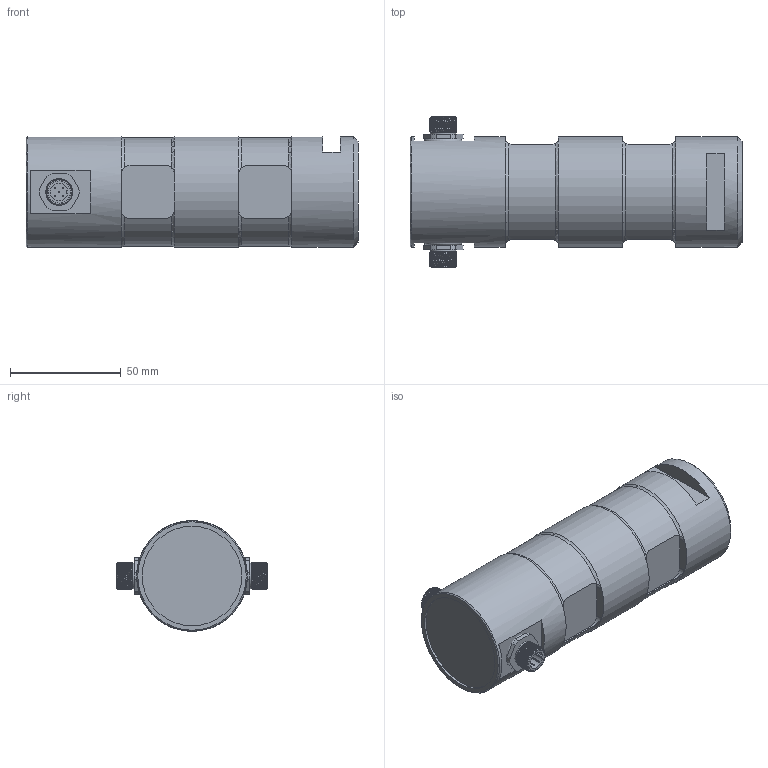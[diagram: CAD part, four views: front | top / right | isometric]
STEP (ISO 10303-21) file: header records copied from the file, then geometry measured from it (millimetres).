
FILE_DESCRIPTION(/* description */ ('Alibre Inc.'),/* implementation_level */ '2;1');
FILE_NAME(/* name */ 'export0',/* time_stamp */ '2016-04-25T08:49:04+02:00',/* author */ (''),/* organization */ (''),/* preprocessor_version */ 'ST-DEVELOPER v14',/* originating_system */ 'Alibre',/* authorisation */ '');
FILE_SCHEMA (('CONFIG_CONTROL_DESIGN'));
Length unit declared in the file: centimetre
Products named in the file (6): ID_1; ID_2; ID_3; ID_4
Bounding box: 150 x 68 x 50 mm (x, y, z)
Volume: 276595.3 mm3; surface area: 36829.4 mm2
Topology: 15 solids, 15 shells, 276 faces, 598 edges, 366 vertices
Faces by surface type: plane 116, cylinder 94, bspline 46, cone 10, torus 10
Full cylindrical faces by diameter (mm): 0.5 x16, 0.504 x2, 8 x4, 10 x6, 11.5 x2, 13 x2, 14.376 x2, 45 x1, 50 x3
Entity records: 16303 total; most frequent: CARTESIAN_POINT 12572, ORIENTED_EDGE 694, DIRECTION 473, EDGE_CURVE 342, VERTEX_POINT 225, FACE_BOUND 220, EDGE_LOOP 219, AXIS2_PLACEMENT_3D 213
